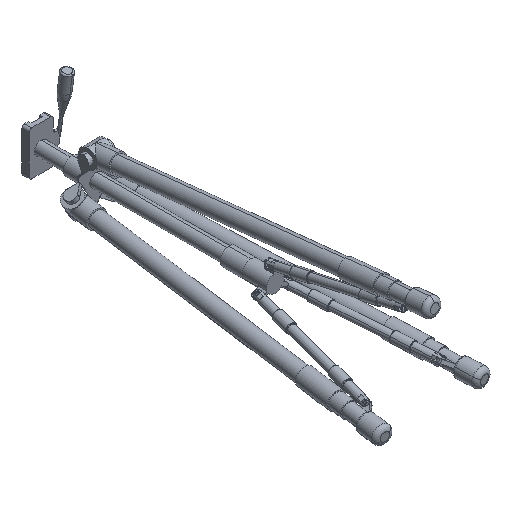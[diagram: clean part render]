
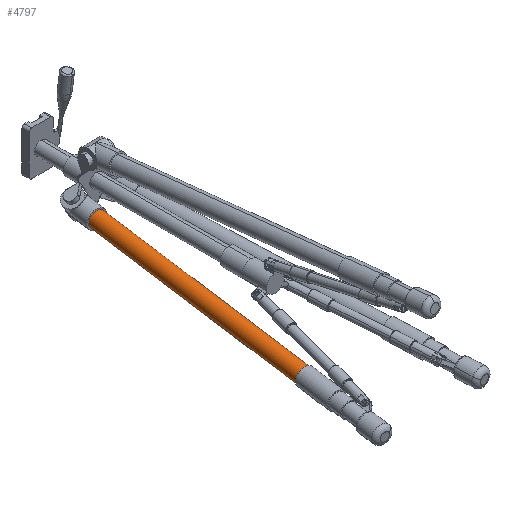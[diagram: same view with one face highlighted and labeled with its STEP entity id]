
A CAD part, isometric view. The second image highlights one B-rep face of the part: STEP entity #4797.
In plain terms, the highlighted cylindrical face has radius 17.5 mm (diameter 35 mm), a partial arc.
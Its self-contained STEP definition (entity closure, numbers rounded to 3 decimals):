
#20 = VECTOR ( 'NONE', #8157, 1000. ) ;
#29 = DIRECTION ( 'NONE',  ( 0., 0., 1. ) ) ;
#115 = DIRECTION ( 'NONE',  ( 0., -1., 0. ) ) ;
#145 = CARTESIAN_POINT ( 'NONE',  ( 0., -50., 0. ) ) ;
#633 = CARTESIAN_POINT ( 'NONE',  ( 0., -570., 0. ) ) ;
#637 = CARTESIAN_POINT ( 'NONE',  ( 0., -570., -17.5 ) ) ;
#1030 = EDGE_CURVE ( 'NONE', #6779, #7181, #1794, .T. ) ;
#1200 = ORIENTED_EDGE ( 'NONE', *, *, #1030, .F. ) ;
#1278 = DIRECTION ( 'NONE',  ( 0., 0., -1. ) ) ;
#1638 = AXIS2_PLACEMENT_3D ( 'NONE', #3820, #7435, #8104 ) ;
#1767 = CIRCLE ( 'NONE', #4358, 17.5 ) ;
#1794 = LINE ( 'NONE', #6519, #7038 ) ;
#2094 = ORIENTED_EDGE ( 'NONE', *, *, #3268, .T. ) ;
#2186 = AXIS2_PLACEMENT_3D ( 'NONE', #633, #5099, #1278 ) ;
#2649 = CIRCLE ( 'NONE', #2186, 17.5 ) ;
#3136 = CYLINDRICAL_SURFACE ( 'NONE', #1638, 17.5 ) ;
#3268 = EDGE_CURVE ( 'NONE', #6164, #7181, #1767, .T. ) ;
#3271 = VERTEX_POINT ( 'NONE', #637 ) ;
#3333 = LINE ( 'NONE', #3433, #20 ) ;
#3387 = CARTESIAN_POINT ( 'NONE',  ( 0., -570., 17.5 ) ) ;
#3433 = CARTESIAN_POINT ( 'NONE',  ( 0., -650., -17.5 ) ) ;
#3820 = CARTESIAN_POINT ( 'NONE',  ( 0., -650., 0. ) ) ;
#3833 = CARTESIAN_POINT ( 'NONE',  ( 0., -50., 17.5 ) ) ;
#4358 = AXIS2_PLACEMENT_3D ( 'NONE', #145, #115, #29 ) ;
#4526 = CARTESIAN_POINT ( 'NONE',  ( 0., -50., -17.5 ) ) ;
#4577 = EDGE_CURVE ( 'NONE', #3271, #6779, #2649, .T. ) ;
#4797 = ADVANCED_FACE ( 'Face6', ( #6748 ), #3136, .T. ) ;
#5099 = DIRECTION ( 'NONE',  ( 0., -1., 0. ) ) ;
#5164 = ORIENTED_EDGE ( 'NONE', *, *, #5363, .T. ) ;
#5363 = EDGE_CURVE ( 'NONE', #3271, #6164, #3333, .T. ) ;
#5848 = ORIENTED_EDGE ( 'NONE', *, *, #4577, .F. ) ;
#6164 = VERTEX_POINT ( 'NONE', #4526 ) ;
#6502 = DIRECTION ( 'NONE',  ( 0., 1., 0. ) ) ;
#6519 = CARTESIAN_POINT ( 'NONE',  ( 0., -650., 17.5 ) ) ;
#6748 = FACE_OUTER_BOUND ( 'NONE', #7387, .T. ) ;
#6779 = VERTEX_POINT ( 'NONE', #3387 ) ;
#7038 = VECTOR ( 'NONE', #6502, 1000. ) ;
#7181 = VERTEX_POINT ( 'NONE', #3833 ) ;
#7387 = EDGE_LOOP ( 'NONE', ( #5848, #5164, #2094, #1200 ) ) ;
#7435 = DIRECTION ( 'NONE',  ( 0., 1., 0. ) ) ;
#8104 = DIRECTION ( 'NONE',  ( 0., 0., 1. ) ) ;
#8157 = DIRECTION ( 'NONE',  ( 0., 1., 0. ) ) ;
